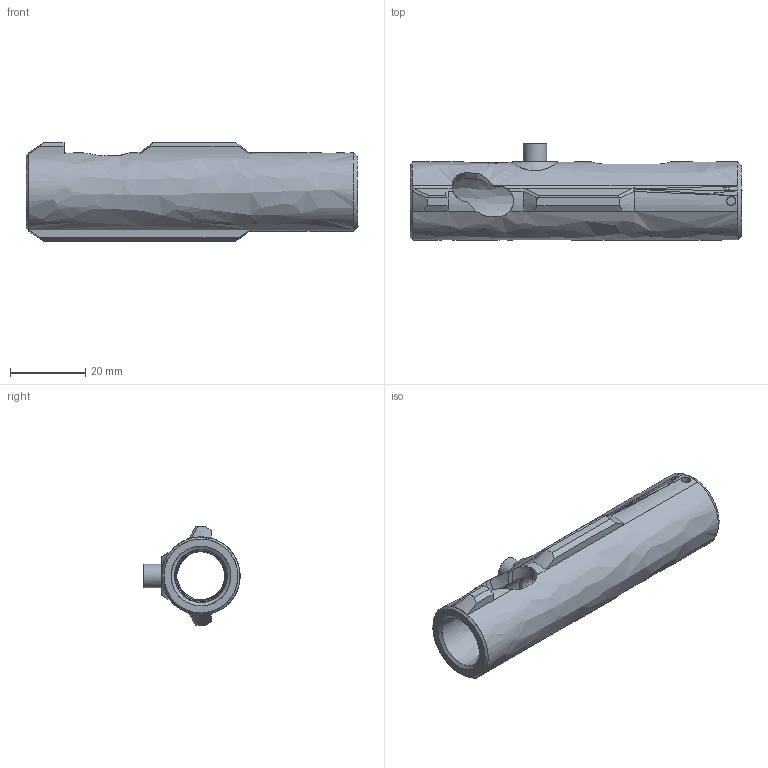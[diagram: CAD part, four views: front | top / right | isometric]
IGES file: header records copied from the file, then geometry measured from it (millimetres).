
Global section: file name: E:\M1337\M1337 Remodel\English\Bolts\IGES Files\Bolt Carrier.igs; native system: NX V2007; preprocessor: SIEMENS PLM Software NX 2027; date: 20260725.081639; units: inch
Bounding box: 88.12 x 25.52 x 26.16 mm (x, y, z)
Surface area: 11609.2 mm2 (no closed solid volume)
Topology: 0 solids, 0 shells, 145 faces, 1148 edges, 1463 vertices
Faces by surface type: bspline 145
